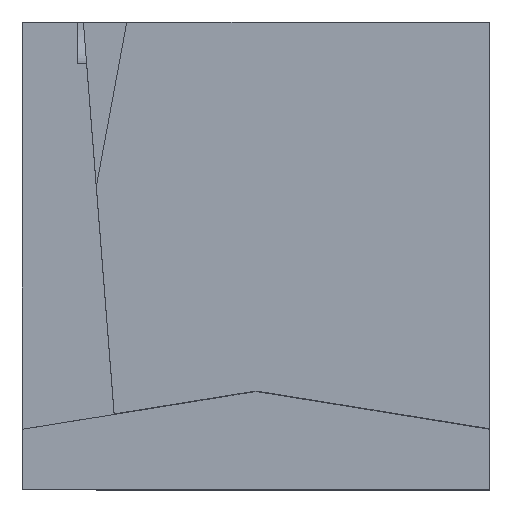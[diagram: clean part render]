
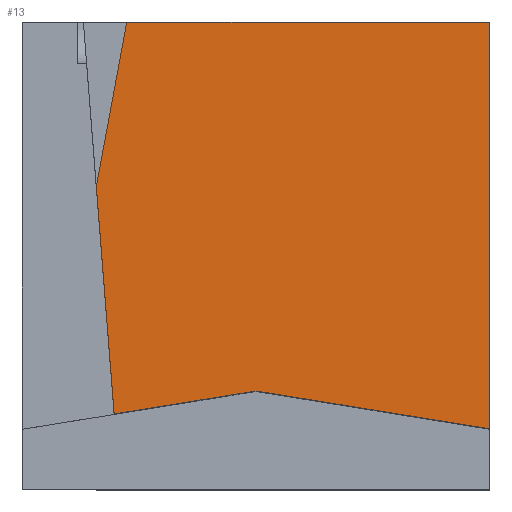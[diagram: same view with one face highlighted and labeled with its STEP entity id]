
A CAD part, top view. The second image highlights one B-rep face of the part: STEP entity #13.
In plain terms, the highlighted planar face has unit normal (0, 0, 1).
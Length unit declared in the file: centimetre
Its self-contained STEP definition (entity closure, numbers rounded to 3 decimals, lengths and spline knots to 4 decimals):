
#13 = ADVANCED_FACE ( 'NONE', ( #1045 ), #612, .T. ) ;
#34 = VECTOR ( 'NONE', #945, 100. ) ;
#160 = VERTEX_POINT ( 'NONE', #719 ) ;
#171 = CARTESIAN_POINT ( 'NONE',  ( 158.2512, 647.6973, 1000. ) ) ;
#201 = ORIENTED_EDGE ( 'NONE', *, *, #1360, .T. ) ;
#203 = DIRECTION ( 'NONE',  ( -1., 0., 0. ) ) ;
#214 = VECTOR ( 'NONE', #846, 100. ) ;
#223 = CARTESIAN_POINT ( 'NONE',  ( 1000., 129.5053, 1000. ) ) ;
#228 = LINE ( 'NONE', #1067, #789 ) ;
#253 = CARTESIAN_POINT ( 'NONE',  ( 223.3759, 1000., 1000. ) ) ;
#289 = LINE ( 'NONE', #1127, #598 ) ;
#295 = DIRECTION ( 'NONE',  ( 0., 0., 1. ) ) ;
#586 = ORIENTED_EDGE ( 'NONE', *, *, #1012, .F. ) ;
#598 = VECTOR ( 'NONE', #822, 100. ) ;
#612 = PLANE ( 'NONE',  #963 ) ;
#622 = CARTESIAN_POINT ( 'NONE',  ( 500., 210.1863, 1000. ) ) ;
#640 = ORIENTED_EDGE ( 'NONE', *, *, #957, .T. ) ;
#703 = CARTESIAN_POINT ( 'NONE',  ( 196.4346, 161.2024, 1000. ) ) ;
#719 = CARTESIAN_POINT ( 'NONE',  ( 1000., 1000., 1000. ) ) ;
#755 = LINE ( 'NONE', #860, #959 ) ;
#789 = VECTOR ( 'NONE', #1096, 100. ) ;
#802 = EDGE_CURVE ( 'NONE', #955, #1281, #228, .T. ) ;
#822 = DIRECTION ( 'NONE',  ( 0., 1., 0. ) ) ;
#839 = LINE ( 'NONE', #1198, #34 ) ;
#846 = DIRECTION ( 'NONE',  ( -0.987, 0.159, 0. ) ) ;
#860 = CARTESIAN_POINT ( 'NONE',  ( 223.3759, 1000., 1000. ) ) ;
#862 = EDGE_LOOP ( 'NONE', ( #1049, #586, #937, #1193, #201, #640 ) ) ;
#929 = CARTESIAN_POINT ( 'NONE',  ( 0., 0., 1000. ) ) ;
#937 = ORIENTED_EDGE ( 'NONE', *, *, #802, .F. ) ;
#945 = DIRECTION ( 'NONE',  ( -0.078, 0.997, 0. ) ) ;
#946 = EDGE_CURVE ( 'NONE', #1261, #1221, #755, .T. ) ;
#952 = LINE ( 'NONE', #223, #214 ) ;
#955 = VERTEX_POINT ( 'NONE', #622 ) ;
#957 = EDGE_CURVE ( 'NONE', #160, #1221, #976, .T. ) ;
#959 = VECTOR ( 'NONE', #1068, 100. ) ;
#963 = AXIS2_PLACEMENT_3D ( 'NONE', #929, #295, #1265 ) ;
#976 = LINE ( 'NONE', #1382, #1368 ) ;
#983 = CARTESIAN_POINT ( 'NONE',  ( 1000., 129.5053, 1000. ) ) ;
#1012 = EDGE_CURVE ( 'NONE', #1281, #1261, #839, .T. ) ;
#1021 = EDGE_CURVE ( 'NONE', #1151, #955, #952, .T. ) ;
#1045 = FACE_OUTER_BOUND ( 'NONE', #862, .T. ) ;
#1049 = ORIENTED_EDGE ( 'NONE', *, *, #946, .F. ) ;
#1067 = CARTESIAN_POINT ( 'NONE',  ( 500., 210.1863, 1000. ) ) ;
#1068 = DIRECTION ( 'NONE',  ( 0.182, 0.983, 0. ) ) ;
#1096 = DIRECTION ( 'NONE',  ( -0.987, -0.159, 0. ) ) ;
#1127 = CARTESIAN_POINT ( 'NONE',  ( 1000., 1000., 1000. ) ) ;
#1151 = VERTEX_POINT ( 'NONE', #983 ) ;
#1193 = ORIENTED_EDGE ( 'NONE', *, *, #1021, .F. ) ;
#1198 = CARTESIAN_POINT ( 'NONE',  ( 130.6002, 1000., 1000. ) ) ;
#1221 = VERTEX_POINT ( 'NONE', #253 ) ;
#1261 = VERTEX_POINT ( 'NONE', #171 ) ;
#1265 = DIRECTION ( 'NONE',  ( 1., 0., 0. ) ) ;
#1281 = VERTEX_POINT ( 'NONE', #703 ) ;
#1360 = EDGE_CURVE ( 'NONE', #1151, #160, #289, .T. ) ;
#1368 = VECTOR ( 'NONE', #203, 100. ) ;
#1382 = CARTESIAN_POINT ( 'NONE',  ( 0., 1000., 1000. ) ) ;
